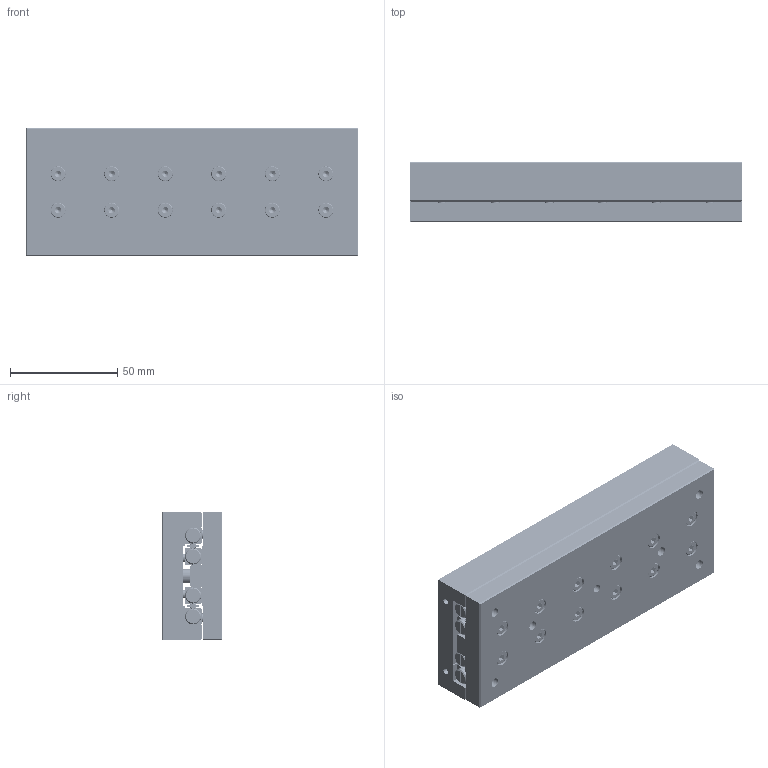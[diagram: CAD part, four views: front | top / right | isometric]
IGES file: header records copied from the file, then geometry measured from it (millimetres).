
Start section: SolidWorks IGES file using analytic representation for surfaces
Global section: file name: C:\Documents and Settings\IanO.IANOHOME\My Documents\Wix and Auto CAD Work\CAD Models\Parametric Models\Auto Models\L1020\L1020_IGES\L1020.060-155.igs; native system: SolidWorks 2009; preprocessor: SolidWorks 2009; author: IanO; date: 110922.162710; units: millimetre
Bounding box: 155 x 28 x 60 mm (x, y, z)
Surface area: 95782.3 mm2 (no closed solid volume)
Topology: 0 solids, 0 shells, 1850 faces, 25152 edges, 25092 vertices
Faces by surface type: bspline 1158, revolution 692
